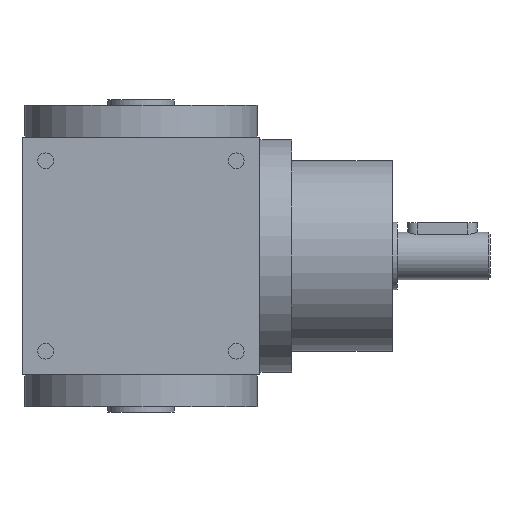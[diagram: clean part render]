
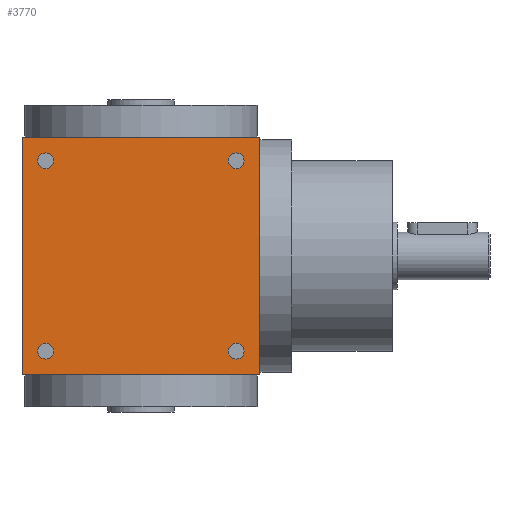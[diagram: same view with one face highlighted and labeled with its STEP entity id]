
A CAD part, left-side view. The second image highlights one B-rep face of the part: STEP entity #3770.
In plain terms, the highlighted planar face has unit normal (-1, 0, 0).
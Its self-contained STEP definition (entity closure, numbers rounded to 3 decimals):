
#91 = VERTEX_POINT ( 'NONE', #3919 ) ;
#155 = CIRCLE ( 'NONE', #3164, 3. ) ;
#273 = CARTESIAN_POINT ( 'NONE',  ( -45., -36., -33. ) ) ;
#327 = DIRECTION ( 'NONE',  ( 0., 0., -1. ) ) ;
#341 = DIRECTION ( 'NONE',  ( 1., 0., 0. ) ) ;
#371 = CARTESIAN_POINT ( 'NONE',  ( -45., 36., 36. ) ) ;
#548 = ORIENTED_EDGE ( 'NONE', *, *, #2981, .T. ) ;
#552 = EDGE_CURVE ( 'NONE', #3246, #1202, #4812, .T. ) ;
#568 = AXIS2_PLACEMENT_3D ( 'NONE', #1270, #2381, #1192 ) ;
#706 = ORIENTED_EDGE ( 'NONE', *, *, #5874, .F. ) ;
#717 = VERTEX_POINT ( 'NONE', #3306 ) ;
#727 = CARTESIAN_POINT ( 'NONE',  ( -45., 45., 45. ) ) ;
#793 = DIRECTION ( 'NONE',  ( 0., 0., 1. ) ) ;
#891 = CIRCLE ( 'NONE', #4339, 3. ) ;
#932 = CARTESIAN_POINT ( 'NONE',  ( -45., -36., 33. ) ) ;
#940 = VECTOR ( 'NONE', #793, 1000. ) ;
#950 = LINE ( 'NONE', #1777, #940 ) ;
#995 = AXIS2_PLACEMENT_3D ( 'NONE', #3787, #1068, #1829 ) ;
#1068 = DIRECTION ( 'NONE',  ( 1., 0., 0. ) ) ;
#1192 = DIRECTION ( 'NONE',  ( 0., 0., -1. ) ) ;
#1202 = VERTEX_POINT ( 'NONE', #4165 ) ;
#1270 = CARTESIAN_POINT ( 'NONE',  ( -45., -45., 45. ) ) ;
#1321 = LINE ( 'NONE', #727, #1349 ) ;
#1349 = VECTOR ( 'NONE', #2260, 1000. ) ;
#1360 = VERTEX_POINT ( 'NONE', #4354 ) ;
#1386 = PLANE ( 'NONE',  #568 ) ;
#1390 = DIRECTION ( 'NONE',  ( 0., 0., -1. ) ) ;
#1427 = DIRECTION ( 'NONE',  ( 0., 0., -1. ) ) ;
#1616 = DIRECTION ( 'NONE',  ( 1., 0., 0. ) ) ;
#1626 = VERTEX_POINT ( 'NONE', #4662 ) ;
#1769 = VERTEX_POINT ( 'NONE', #2623 ) ;
#1777 = CARTESIAN_POINT ( 'NONE',  ( -45., 45., 45. ) ) ;
#1786 = DIRECTION ( 'NONE',  ( 0., 1., 0. ) ) ;
#1829 = DIRECTION ( 'NONE',  ( 0., 0., -1. ) ) ;
#1882 = DIRECTION ( 'NONE',  ( 0., 0., -1. ) ) ;
#1936 = DIRECTION ( 'NONE',  ( 1., 0., 0. ) ) ;
#2005 = AXIS2_PLACEMENT_3D ( 'NONE', #3915, #1616, #1390 ) ;
#2072 = VERTEX_POINT ( 'NONE', #3653 ) ;
#2157 = VERTEX_POINT ( 'NONE', #2377 ) ;
#2195 = CARTESIAN_POINT ( 'NONE',  ( -45., 36., -36. ) ) ;
#2258 = CARTESIAN_POINT ( 'NONE',  ( -45., -36., 36. ) ) ;
#2260 = DIRECTION ( 'NONE',  ( 0., -1., 0. ) ) ;
#2287 = EDGE_CURVE ( 'NONE', #4367, #2157, #3810, .T. ) ;
#2294 = DIRECTION ( 'NONE',  ( 1., 0., 0. ) ) ;
#2366 = VECTOR ( 'NONE', #3234, 1000. ) ;
#2377 = CARTESIAN_POINT ( 'NONE',  ( -45., -36., -39. ) ) ;
#2381 = DIRECTION ( 'NONE',  ( 1., 0., 0. ) ) ;
#2392 = LINE ( 'NONE', #5487, #2366 ) ;
#2454 = VECTOR ( 'NONE', #1786, 1000. ) ;
#2483 = LINE ( 'NONE', #2757, #2454 ) ;
#2523 = DIRECTION ( 'NONE',  ( 0., 0., -1. ) ) ;
#2544 = EDGE_CURVE ( 'NONE', #1202, #3246, #155, .T. ) ;
#2623 = CARTESIAN_POINT ( 'NONE',  ( -45., 36., 33. ) ) ;
#2642 = DIRECTION ( 'NONE',  ( 1., 0., 0. ) ) ;
#2698 = CARTESIAN_POINT ( 'NONE',  ( -45., 36., 36. ) ) ;
#2757 = CARTESIAN_POINT ( 'NONE',  ( -45., 45., -45. ) ) ;
#2926 = EDGE_LOOP ( 'NONE', ( #4098, #706, #3019, #4805 ) ) ;
#2950 = EDGE_CURVE ( 'NONE', #1360, #5615, #3429, .T. ) ;
#2981 = EDGE_CURVE ( 'NONE', #2157, #4367, #3044, .T. ) ;
#3010 = CARTESIAN_POINT ( 'NONE',  ( -45., 36., -39. ) ) ;
#3019 = ORIENTED_EDGE ( 'NONE', *, *, #5273, .F. ) ;
#3044 = CIRCLE ( 'NONE', #995, 3. ) ;
#3051 = AXIS2_PLACEMENT_3D ( 'NONE', #2195, #1936, #1882 ) ;
#3110 = ORIENTED_EDGE ( 'NONE', *, *, #3170, .T. ) ;
#3131 = AXIS2_PLACEMENT_3D ( 'NONE', #4668, #4537, #4488 ) ;
#3164 = AXIS2_PLACEMENT_3D ( 'NONE', #2258, #2294, #1427 ) ;
#3170 = EDGE_CURVE ( 'NONE', #717, #1769, #891, .T. ) ;
#3201 = EDGE_LOOP ( 'NONE', ( #4639, #4446 ) ) ;
#3227 = DIRECTION ( 'NONE',  ( 1., 0., 0. ) ) ;
#3234 = DIRECTION ( 'NONE',  ( 0., 0., -1. ) ) ;
#3236 = AXIS2_PLACEMENT_3D ( 'NONE', #371, #341, #327 ) ;
#3246 = VERTEX_POINT ( 'NONE', #932 ) ;
#3254 = DIRECTION ( 'NONE',  ( 0., 0., -1. ) ) ;
#3278 = CARTESIAN_POINT ( 'NONE',  ( -45., -36., -36. ) ) ;
#3306 = CARTESIAN_POINT ( 'NONE',  ( -45., 36., 39. ) ) ;
#3429 = CIRCLE ( 'NONE', #2005, 3. ) ;
#3653 = CARTESIAN_POINT ( 'NONE',  ( -45., 45., 45. ) ) ;
#3770 = ADVANCED_FACE ( 'NONE', ( #5559, #5407, #5440, #5391, #5400 ), #1386, .F. ) ;
#3787 = CARTESIAN_POINT ( 'NONE',  ( -45., -36., -36. ) ) ;
#3810 = CIRCLE ( 'NONE', #4734, 3. ) ;
#3863 = EDGE_CURVE ( 'NONE', #5615, #1360, #5225, .T. ) ;
#3915 = CARTESIAN_POINT ( 'NONE',  ( -45., 36., -36. ) ) ;
#3919 = CARTESIAN_POINT ( 'NONE',  ( -45., -45., -45. ) ) ;
#3920 = ORIENTED_EDGE ( 'NONE', *, *, #2287, .T. ) ;
#3991 = VERTEX_POINT ( 'NONE', #5953 ) ;
#4001 = ORIENTED_EDGE ( 'NONE', *, *, #4227, .T. ) ;
#4098 = ORIENTED_EDGE ( 'NONE', *, *, #5801, .F. ) ;
#4139 = EDGE_LOOP ( 'NONE', ( #3920, #548 ) ) ;
#4165 = CARTESIAN_POINT ( 'NONE',  ( -45., -36., 39. ) ) ;
#4227 = EDGE_CURVE ( 'NONE', #1769, #717, #4380, .T. ) ;
#4275 = ORIENTED_EDGE ( 'NONE', *, *, #2950, .T. ) ;
#4339 = AXIS2_PLACEMENT_3D ( 'NONE', #2698, #2642, #2523 ) ;
#4354 = CARTESIAN_POINT ( 'NONE',  ( -45., 36., -33. ) ) ;
#4367 = VERTEX_POINT ( 'NONE', #273 ) ;
#4380 = CIRCLE ( 'NONE', #3236, 3. ) ;
#4446 = ORIENTED_EDGE ( 'NONE', *, *, #552, .T. ) ;
#4488 = DIRECTION ( 'NONE',  ( 0., 0., -1. ) ) ;
#4520 = ORIENTED_EDGE ( 'NONE', *, *, #3863, .T. ) ;
#4537 = DIRECTION ( 'NONE',  ( 1., 0., 0. ) ) ;
#4566 = EDGE_LOOP ( 'NONE', ( #4275, #4520 ) ) ;
#4639 = ORIENTED_EDGE ( 'NONE', *, *, #2544, .T. ) ;
#4662 = CARTESIAN_POINT ( 'NONE',  ( -45., -45., 45. ) ) ;
#4668 = CARTESIAN_POINT ( 'NONE',  ( -45., -36., 36. ) ) ;
#4734 = AXIS2_PLACEMENT_3D ( 'NONE', #3278, #3227, #3254 ) ;
#4805 = ORIENTED_EDGE ( 'NONE', *, *, #5284, .F. ) ;
#4812 = CIRCLE ( 'NONE', #3131, 3. ) ;
#5133 = EDGE_LOOP ( 'NONE', ( #3110, #4001 ) ) ;
#5225 = CIRCLE ( 'NONE', #3051, 3. ) ;
#5273 = EDGE_CURVE ( 'NONE', #91, #3991, #2483, .T. ) ;
#5284 = EDGE_CURVE ( 'NONE', #1626, #91, #2392, .T. ) ;
#5391 = FACE_BOUND ( 'NONE', #3201, .T. ) ;
#5400 = FACE_BOUND ( 'NONE', #4139, .T. ) ;
#5407 = FACE_BOUND ( 'NONE', #5133, .T. ) ;
#5440 = FACE_BOUND ( 'NONE', #4566, .T. ) ;
#5487 = CARTESIAN_POINT ( 'NONE',  ( -45., -45., 45. ) ) ;
#5559 = FACE_OUTER_BOUND ( 'NONE', #2926, .T. ) ;
#5615 = VERTEX_POINT ( 'NONE', #3010 ) ;
#5801 = EDGE_CURVE ( 'NONE', #2072, #1626, #1321, .T. ) ;
#5874 = EDGE_CURVE ( 'NONE', #3991, #2072, #950, .T. ) ;
#5953 = CARTESIAN_POINT ( 'NONE',  ( -45., 45., -45. ) ) ;
